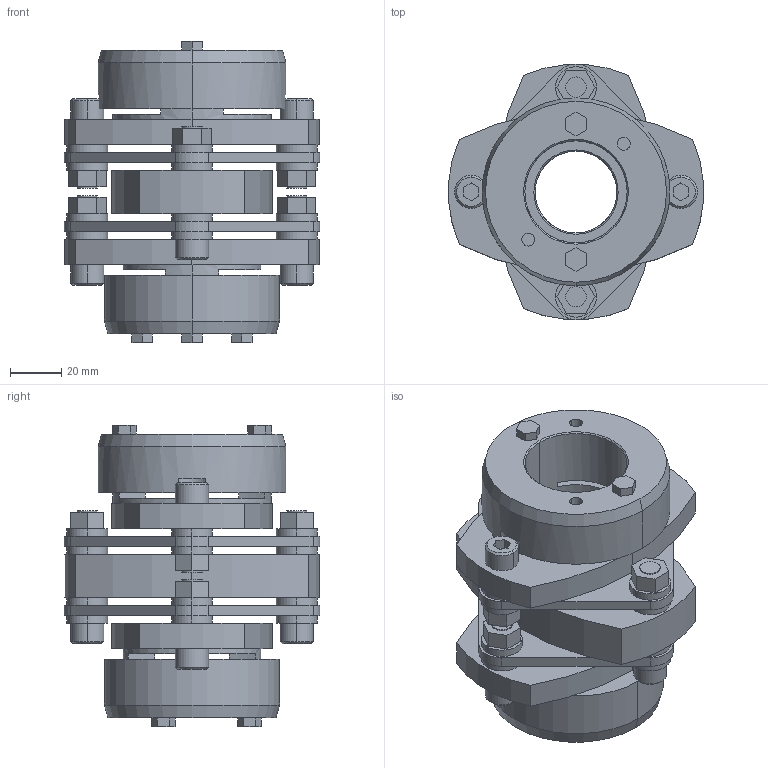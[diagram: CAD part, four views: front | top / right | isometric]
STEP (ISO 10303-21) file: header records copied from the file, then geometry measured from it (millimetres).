
FILE_DESCRIPTION((''),'2;1');
FILE_NAME('LCD-100T7-32×40.stp','2011-09-09T08:57:57',(''),(''),'AutoCAD STEP 2000i','AutoCAD 2000i',', , ');
FILE_SCHEMA(('CONFIG_CONTROL_DESIGN'));
Length unit declared in the file: millimetre
Products named in the file (10): LCD-100T7-30×38; 忣兜1; LC100T7-T038; LC100T7-T035; LC100T7-T030-1; LC100T7-T030; LC100T7-T025; LC100T7-T022-1; LC100T7-T022; LCD100-ITA
Assembly tree (9 placements, depth 2):
  LCD-100T7-30×38
    忣兜1
    LC100T7-T038
    LC100T7-T035
    LC100T7-T030-1
    LC100T7-T030
    LC100T7-T025
    LC100T7-T022-1
    LC100T7-T022
    LCD100-ITA
Bounding box: 100 x 99.93 x 118 mm (x, y, z)
Volume: 352394.6 mm3; surface area: 91409.2 mm2
Topology: 1 solids, 1 shells, 317 faces, 774 edges, 508 vertices
Faces by surface type: plane 171, cylinder 122, cone 24
Entity records: 9637 total; most frequent: DIRECTION 1716, CARTESIAN_POINT 1609, ORIENTED_EDGE 1548, EDGE_CURVE 774, AXIS2_PLACEMENT_3D 615, VERTEX_POINT 508, VECTOR 486, LINE 486
